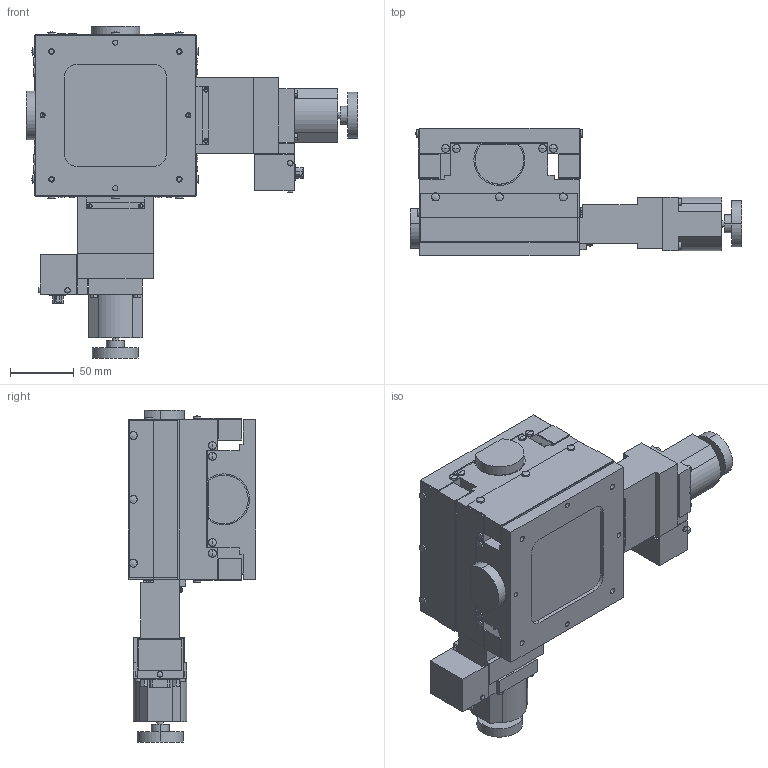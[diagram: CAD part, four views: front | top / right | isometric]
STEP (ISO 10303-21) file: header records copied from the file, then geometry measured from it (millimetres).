
FILE_DESCRIPTION (( 'STEP AP203' ), '1' );
FILE_NAME ('ALD-106-H1P.STEP', '2008-03-11T09:21:08', ( '' ), ( '' ), 'SwSTEP 2.0', 'SolidWorks 2007', '' );
FILE_SCHEMA (( 'CONFIG_CONTROL_DESIGN' ));
Length unit declared in the file: millimetre
Products named in the file (4): ALD-106-H1P; ALD-106-H1P-1_蹬怮椔; ALD-106-H1P-3_蹬怮椔; ALD-106-H1P-2_蹬怮椔
Assembly tree (3 placements, depth 2):
  ALD-106-H1P
    ALD-106-H1P-3_蹬怮椔
    ALD-106-H1P-2_蹬怮椔
    ALD-106-H1P-1_蹬怮椔
Bounding box: 260 x 100 x 260 mm (x, y, z)
Volume: 1727342.6 mm3; surface area: 282560.4 mm2
Topology: 3 solids, 19 shells, 1037 faces, 2462 edges, 1594 vertices
Faces by surface type: plane 479, cylinder 392, cone 100, sphere 40, bspline 18, torus 8
Entity records: 34024 total; most frequent: CARTESIAN_POINT 8765, DIRECTION 5458, ORIENTED_EDGE 4876, EDGE_CURVE 2438, AXIS2_PLACEMENT_3D 2031, VERTEX_POINT 1594, VECTOR 1396, LINE 1396
